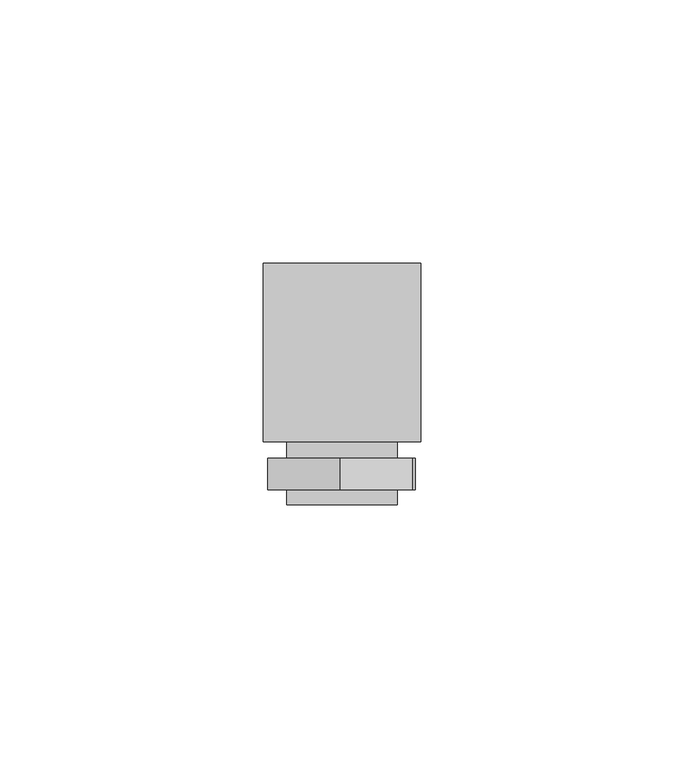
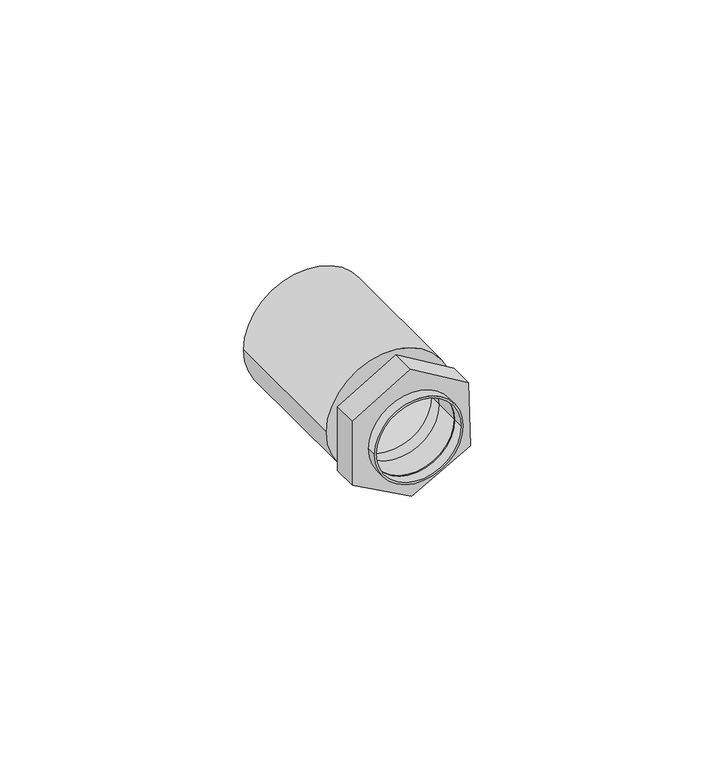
"""IFC4 building model written with IfcOpenShell, lengths in millimetres: cable carrier fitting geometry, Муфта_вводная_для_гофротрубы : Муфта вводная для гофротрубы 20мм."""

from ifc_helpers import new_model, si_unit, point, frame, frame_2d, origin, place, context, project, spatial, polyline, circle_curve, trimmed, segment, composite_curve, outline, extrude, source, transform, mapped, element, save


def cable_carrier_fitting_10f0f2cf(model_context):
    return source(origin(), model_context, "Body", "SweptSolid", [
        extrude(outline(polyline([(-8.0356639, 14.0), (7.9584111, 13.5646095), (16.0883696, -0.2159483), (7.9643361, -14.0), (-8.0356639, -14.0), (-15.7816306, 0.0), (-8.0356639, 14.0)]), holes=[composite_curve([segment(trimmed(circle_curve(frame_2d((0.0057257, 0.0905136)), 10.0), [point((0.0057257, 10.0905136))], [point((0.0057257, -9.9094864))], True, "CARTESIAN"), True, "CONTINUOUS"), segment(trimmed(circle_curve(frame_2d((0.0057257, 0.0905136)), 10.0), [point((0.0057257, -9.9094864))], [point((0.0057257, 10.0905136))], True, "CARTESIAN"), True, "CONTINUOUS")], self_intersect=False)]), frame((0.0, -43.1018563, 0.0), z_axis=(0.0, 1.0, 0.0), x_axis=(0.0, 0.0, 1.0)), (0.0, 0.0, 1.0), 6.0),
        extrude(outline(composite_curve([segment(trimmed(circle_curve(frame_2d((0.0032191, 0.0900025)), 10.5), [point((0.0032191, -10.4099975))], [point((0.0032191, 10.5900025))], False, "CARTESIAN"), True, "CONTINUOUS"), segment(trimmed(circle_curve(frame_2d((0.0032191, 0.0900025)), 10.5), [point((0.0032191, 10.5900025))], [point((0.0032191, -10.4099975))], False, "CARTESIAN"), True, "CONTINUOUS")], self_intersect=False), holes=[composite_curve([segment(trimmed(circle_curve(frame_2d((0.0057257, 0.0905136)), 10.0), [point((0.0057257, 10.0905136))], [point((0.0057257, -9.9094864))], True, "CARTESIAN"), True, "CONTINUOUS"), segment(trimmed(circle_curve(frame_2d((0.0057257, 0.0905136)), 10.0), [point((0.0057257, -9.9094864))], [point((0.0057257, 10.0905136))], True, "CARTESIAN"), True, "CONTINUOUS")], self_intersect=False)]), frame((0.0, -46.0, 0.0), z_axis=(0.0, 1.0, 0.0), x_axis=(0.0, 0.0, 1.0)), (0.0, 0.0, 1.0), 12.0),
        extrude(outline(composite_curve([segment(trimmed(circle_curve(frame_2d((0.0, 0.0905136)), 15.0), [point((0.0, -14.9094864))], [point((0.0, 15.0905136))], False, "CARTESIAN"), True, "CONTINUOUS"), segment(trimmed(circle_curve(frame_2d((0.0, 0.0905136)), 15.0), [point((0.0, 15.0905136))], [point((0.0, -14.9094864))], False, "CARTESIAN"), True, "CONTINUOUS")], self_intersect=False), holes=[composite_curve([segment(trimmed(circle_curve(frame_2d((0.0057257, 0.0905136)), 10.0), [point((0.0057257, 10.0905136))], [point((0.0057257, -9.9094864))], True, "CARTESIAN"), True, "CONTINUOUS"), segment(trimmed(circle_curve(frame_2d((0.0057257, 0.0905136)), 10.0), [point((0.0057257, -9.9094864))], [point((0.0057257, 10.0905136))], True, "CARTESIAN"), True, "CONTINUOUS")], self_intersect=False)]), frame((0.0, -34.0, 0.0), z_axis=(0.0, 1.0, 0.0), x_axis=(0.0, 0.0, 1.0)), (0.0, 0.0, 1.0), 34.0),
    ])


if __name__ == "__main__":
    model = new_model("IFC4")
    model_context = context("Model", 3, world=origin())
    ifc_project = project(units=[si_unit("LENGTHUNIT", "METRE", prefix="MILLI")], contexts=[model_context])
    site = spatial("IfcSite", under=ifc_project)
    building = spatial("IfcBuilding", under=site)
    placement = place(None, origin())
    cable_carrier_fitting_shape = cable_carrier_fitting_10f0f2cf(model_context)
    element("IfcCableCarrierFitting", 1, ObjectType="Муфта_вводная_для_гофротрубы : Муфта вводная для гофротрубы 20мм", at=placement, inside=building, context=model_context, shape_type="MappedRepresentation", body=[
        mapped(cable_carrier_fitting_shape, transform((0.0, 0.0, 0.0), x_axis=(1.0, 0.0, 0.0), y_axis=(0.0, 1.0, 0.0), z_axis=(0.0, 0.0, 1.0))),
    ])
    save(model, "model.ifc")
